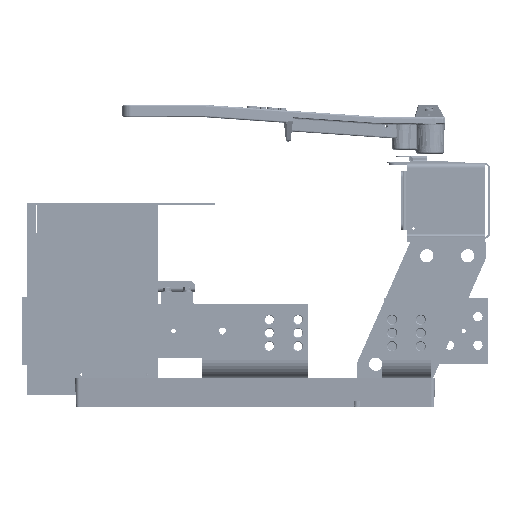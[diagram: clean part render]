
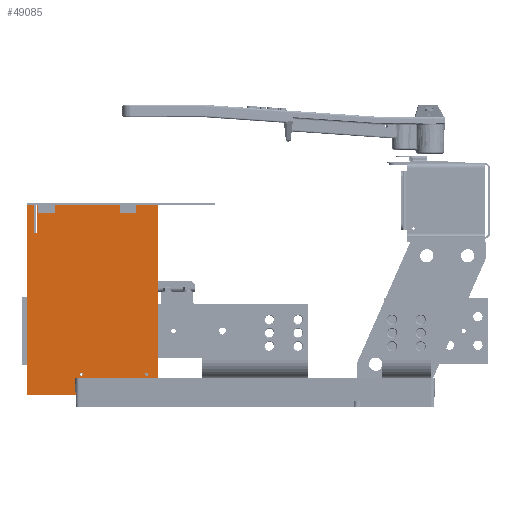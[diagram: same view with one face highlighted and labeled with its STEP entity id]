
A CAD part, left-side view. The second image highlights one B-rep face of the part: STEP entity #49085.
In plain terms, the highlighted planar face has unit normal (-1, 0, 0) as drawn and (0, 0, -1) by its records, which use the part's own axes.
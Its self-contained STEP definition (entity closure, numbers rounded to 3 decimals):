
#2559=FACE_BOUND('',#11056,.T.);
#2560=FACE_BOUND('',#11057,.T.);
#2561=FACE_BOUND('',#11058,.T.);
#2562=FACE_BOUND('',#11059,.T.);
#4418=CIRCLE('',#54474,0.097);
#4420=CIRCLE('',#54477,0.097);
#4422=CIRCLE('',#54480,0.097);
#4424=CIRCLE('',#54483,0.097);
#7747=FACE_OUTER_BOUND('',#11055,.T.);
#11055=EDGE_LOOP('',(#41093,#41094,#41095,#41096,#41097,#41098,#41099,#41100,
#41101,#41102,#41103,#41104));
#11056=EDGE_LOOP('',(#41105));
#11057=EDGE_LOOP('',(#41106));
#11058=EDGE_LOOP('',(#41107));
#11059=EDGE_LOOP('',(#41108));
#14818=LINE('',#81921,#18742);
#14822=LINE('',#81929,#18746);
#14825=LINE('',#81935,#18749);
#14828=LINE('',#81941,#18752);
#14831=LINE('',#81947,#18755);
#14834=LINE('',#81953,#18758);
#14837=LINE('',#81959,#18761);
#14840=LINE('',#81965,#18764);
#14843=LINE('',#81971,#18767);
#14846=LINE('',#81977,#18770);
#14849=LINE('',#81983,#18773);
#14852=LINE('',#81988,#18776);
#18742=VECTOR('',#66165,0.394);
#18746=VECTOR('',#66171,0.394);
#18749=VECTOR('',#66176,0.394);
#18752=VECTOR('',#66181,0.394);
#18755=VECTOR('',#66186,0.394);
#18758=VECTOR('',#66191,0.394);
#18761=VECTOR('',#66196,0.394);
#18764=VECTOR('',#66201,0.394);
#18767=VECTOR('',#66206,0.394);
#18770=VECTOR('',#66211,0.394);
#18773=VECTOR('',#66216,0.394);
#18776=VECTOR('',#66221,0.394);
#23039=VERTEX_POINT('',#81895);
#23041=VERTEX_POINT('',#81901);
#23043=VERTEX_POINT('',#81907);
#23045=VERTEX_POINT('',#81913);
#23047=VERTEX_POINT('',#81919);
#23048=VERTEX_POINT('',#81920);
#23051=VERTEX_POINT('',#81928);
#23053=VERTEX_POINT('',#81934);
#23055=VERTEX_POINT('',#81940);
#23057=VERTEX_POINT('',#81946);
#23059=VERTEX_POINT('',#81952);
#23061=VERTEX_POINT('',#81958);
#23063=VERTEX_POINT('',#81964);
#23065=VERTEX_POINT('',#81970);
#23067=VERTEX_POINT('',#81976);
#23069=VERTEX_POINT('',#81982);
#29254=EDGE_CURVE('',#23039,#23039,#4418,.T.);
#29257=EDGE_CURVE('',#23041,#23041,#4420,.T.);
#29260=EDGE_CURVE('',#23043,#23043,#4422,.T.);
#29263=EDGE_CURVE('',#23045,#23045,#4424,.T.);
#29266=EDGE_CURVE('',#23047,#23048,#14818,.T.);
#29270=EDGE_CURVE('',#23051,#23047,#14822,.T.);
#29273=EDGE_CURVE('',#23053,#23051,#14825,.T.);
#29276=EDGE_CURVE('',#23055,#23053,#14828,.T.);
#29279=EDGE_CURVE('',#23057,#23055,#14831,.T.);
#29282=EDGE_CURVE('',#23059,#23057,#14834,.T.);
#29285=EDGE_CURVE('',#23061,#23059,#14837,.T.);
#29288=EDGE_CURVE('',#23063,#23061,#14840,.T.);
#29291=EDGE_CURVE('',#23065,#23063,#14843,.T.);
#29294=EDGE_CURVE('',#23067,#23065,#14846,.T.);
#29297=EDGE_CURVE('',#23069,#23067,#14849,.T.);
#29300=EDGE_CURVE('',#23048,#23069,#14852,.T.);
#41093=ORIENTED_EDGE('',*,*,#29300,.F.);
#41094=ORIENTED_EDGE('',*,*,#29266,.F.);
#41095=ORIENTED_EDGE('',*,*,#29270,.F.);
#41096=ORIENTED_EDGE('',*,*,#29273,.F.);
#41097=ORIENTED_EDGE('',*,*,#29276,.F.);
#41098=ORIENTED_EDGE('',*,*,#29279,.F.);
#41099=ORIENTED_EDGE('',*,*,#29282,.F.);
#41100=ORIENTED_EDGE('',*,*,#29285,.F.);
#41101=ORIENTED_EDGE('',*,*,#29288,.F.);
#41102=ORIENTED_EDGE('',*,*,#29291,.F.);
#41103=ORIENTED_EDGE('',*,*,#29294,.F.);
#41104=ORIENTED_EDGE('',*,*,#29297,.F.);
#41105=ORIENTED_EDGE('',*,*,#29254,.T.);
#41106=ORIENTED_EDGE('',*,*,#29257,.T.);
#41107=ORIENTED_EDGE('',*,*,#29260,.T.);
#41108=ORIENTED_EDGE('',*,*,#29263,.T.);
#46852=PLANE('',#54498);
#49085=ADVANCED_FACE('',(#7747,#2559,#2560,#2561,#2562),#46852,.F.);
#54474=AXIS2_PLACEMENT_3D('',#81896,#66137,#66138);
#54477=AXIS2_PLACEMENT_3D('',#81902,#66144,#66145);
#54480=AXIS2_PLACEMENT_3D('',#81908,#66151,#66152);
#54483=AXIS2_PLACEMENT_3D('',#81914,#66158,#66159);
#54498=AXIS2_PLACEMENT_3D('',#81991,#66225,#66226);
#66137=DIRECTION('center_axis',(0.,0.,1.));
#66138=DIRECTION('ref_axis',(-1.,0.,0.));
#66144=DIRECTION('center_axis',(0.,0.,1.));
#66145=DIRECTION('ref_axis',(-1.,0.,0.));
#66151=DIRECTION('center_axis',(0.,0.,1.));
#66152=DIRECTION('ref_axis',(-1.,0.,0.));
#66158=DIRECTION('center_axis',(0.,0.,1.));
#66159=DIRECTION('ref_axis',(-1.,0.,0.));
#66165=DIRECTION('',(1.,0.,0.));
#66171=DIRECTION('',(0.,1.,0.));
#66176=DIRECTION('',(1.,0.,0.));
#66181=DIRECTION('',(0.,-1.,0.));
#66186=DIRECTION('',(-1.,0.,0.));
#66191=DIRECTION('',(0.,-1.,0.));
#66196=DIRECTION('',(1.,0.,0.));
#66201=DIRECTION('',(0.,-1.,0.));
#66206=DIRECTION('',(-1.,0.,0.));
#66211=DIRECTION('',(0.,1.,0.));
#66216=DIRECTION('',(1.,0.,0.));
#66221=DIRECTION('',(0.,-1.,0.));
#66225=DIRECTION('center_axis',(0.,0.,1.));
#66226=DIRECTION('ref_axis',(1.,0.,0.));
#81895=CARTESIAN_POINT('',(0.347,2.,0.));
#81896=CARTESIAN_POINT('Origin',(0.25,2.,0.));
#81901=CARTESIAN_POINT('',(0.347,7.,0.));
#81902=CARTESIAN_POINT('Origin',(0.25,7.,0.));
#81907=CARTESIAN_POINT('',(10.472,0.688,0.));
#81908=CARTESIAN_POINT('Origin',(10.375,0.688,0.));
#81913=CARTESIAN_POINT('',(10.472,4.688,0.));
#81914=CARTESIAN_POINT('Origin',(10.375,4.688,0.));
#81919=CARTESIAN_POINT('',(10.625,5.094,0.));
#81920=CARTESIAN_POINT('',(11.156,5.094,0.));
#81921=CARTESIAN_POINT('',(10.625,5.094,0.));
#81928=CARTESIAN_POINT('',(10.625,0.,0.));
#81929=CARTESIAN_POINT('',(10.625,0.,0.));
#81934=CARTESIAN_POINT('',(0.,0.,0.));
#81935=CARTESIAN_POINT('',(0.,0.,0.));
#81940=CARTESIAN_POINT('',(0.,7.422,0.));
#81941=CARTESIAN_POINT('',(0.,7.422,0.));
#81946=CARTESIAN_POINT('',(1.75,7.422,0.));
#81947=CARTESIAN_POINT('',(1.75,7.422,0.));
#81952=CARTESIAN_POINT('',(1.75,7.578,0.));
#81953=CARTESIAN_POINT('',(1.75,7.578,0.));
#81958=CARTESIAN_POINT('',(0.,7.578,0.));
#81959=CARTESIAN_POINT('',(0.,7.578,0.));
#81964=CARTESIAN_POINT('',(0.,8.,0.));
#81965=CARTESIAN_POINT('',(0.,8.,0.));
#81970=CARTESIAN_POINT('',(11.625,8.,0.));
#81971=CARTESIAN_POINT('',(11.625,8.,0.));
#81976=CARTESIAN_POINT('',(11.625,4.719,0.));
#81977=CARTESIAN_POINT('',(11.625,4.719,0.));
#81982=CARTESIAN_POINT('',(11.156,4.719,0.));
#81983=CARTESIAN_POINT('',(11.156,4.719,0.));
#81988=CARTESIAN_POINT('',(11.156,5.094,0.));
#81991=CARTESIAN_POINT('Origin',(5.401,4.41,0.));
